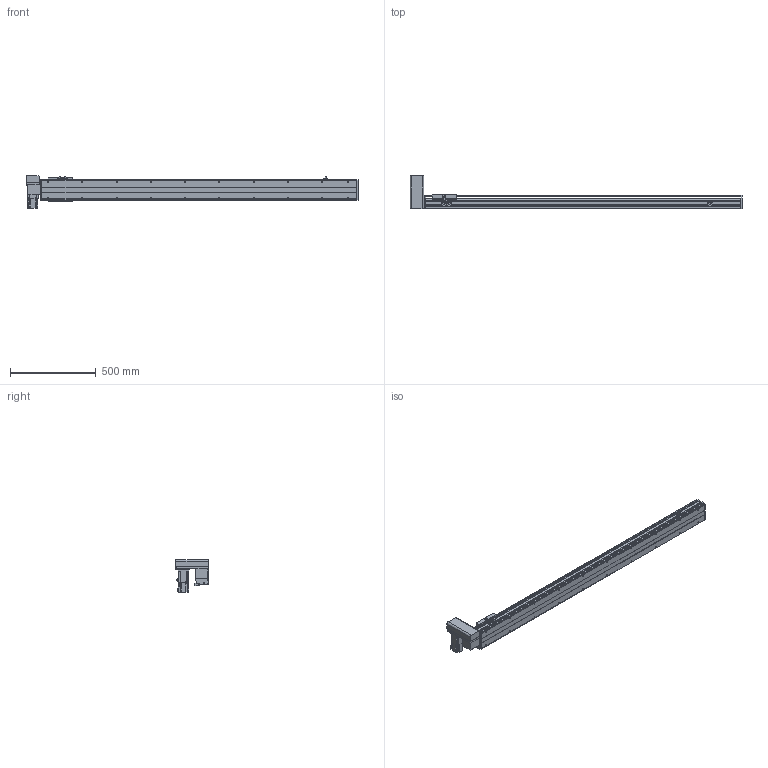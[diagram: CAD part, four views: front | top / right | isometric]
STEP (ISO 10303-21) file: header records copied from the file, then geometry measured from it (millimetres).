
FILE_DESCRIPTION(/* description */ ('STEP AP214'),/* implementation_level */ '2;1');
FILE_NAME(/* name */ 'PBS120-P40-S1550-RU-T40-C1-N(0)',/* time_stamp */ '2022-06-06T02:50:10+02:00',/* author */ ('License CC BY-ND 4.0'),/* organization */ ('CADENAS'),/* preprocessor_version */ 'ST-DEVELOPER v18.102',/* originating_system */ 'PARTsolutions',/* authorisation */ ' ');
FILE_SCHEMA (('AUTOMOTIVE_DESIGN {1 0 10303 214 3 1 1}'));
Length unit declared in the file: millimetre
Products named in the file (7): PBS120-P40-S1550-RU-T40-C1-N(0); PBS120_sensor; PBS120_plant; PBS120_sliser; T40-p1; PBS120T-RU_motors; PBS120-S1550()_body
Assembly tree (8 placements, depth 2):
  PBS120-P40-S1550-RU-T40-C1-N(0)
    PBS120_sensor  x3
    PBS120_plant
    PBS120_sliser
    T40-p1
    PBS120T-RU_motors
    PBS120-S1550()_body
Bounding box: 1936 x 198 x 189.7 mm (x, y, z)
Volume: 7751519.5 mm3; surface area: 1558727.8 mm2
Topology: 8 solids, 8 shells, 840 faces, 2176 edges, 1399 vertices
Faces by surface type: plane 553, cylinder 233, cone 52, torus 2
Full cylindrical faces by diameter (mm): 2.459 x6, 3.242 x4, 4 x2, 4.134 x4, 4.5 x10, 4.917 x24, 5.5 x11, 6 x2, 6.6 x1, 7 x2, 8.5 x4, 9 x4, 12 x1, 14 x1, 30 x2, 40 x1, 50 x2
Entity records: 21834 total; most frequent: DIRECTION 3788, CARTESIAN_POINT 3713, ORIENTED_EDGE 3526, EDGE_CURVE 1763, AXIS2_PLACEMENT_3D 1280, LINE 1228, VECTOR 1228, VERTEX_POINT 1205
